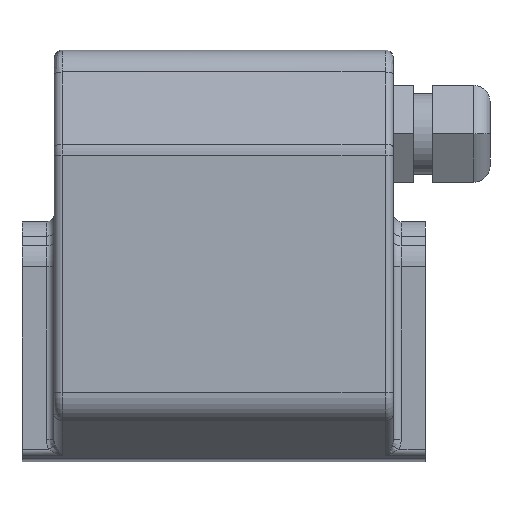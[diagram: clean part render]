
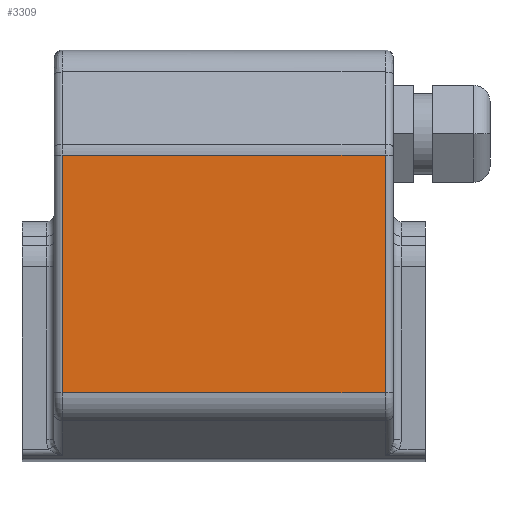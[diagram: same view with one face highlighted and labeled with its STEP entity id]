
A CAD part, left-side view. The second image highlights one B-rep face of the part: STEP entity #3309.
In plain terms, the highlighted planar face has unit normal (-1, 0, 0.009).
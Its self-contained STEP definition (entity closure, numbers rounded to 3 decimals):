
#244=PLANE('',#3458);
#335=ORIENTED_EDGE('',*,*,#1032,.T.);
#336=ORIENTED_EDGE('',*,*,#1034,.T.);
#337=ORIENTED_EDGE('',*,*,#1035,.F.);
#338=ORIENTED_EDGE('',*,*,#1036,.T.);
#1032=EDGE_CURVE('',#1380,#1379,#1595,.T.);
#1034=EDGE_CURVE('',#1379,#1381,#1596,.T.);
#1035=EDGE_CURVE('',#1382,#1381,#1597,.T.);
#1036=EDGE_CURVE('',#1382,#1380,#1598,.F.);
#1379=VERTEX_POINT('',#4514);
#1380=VERTEX_POINT('',#4516);
#1381=VERTEX_POINT('',#4520);
#1382=VERTEX_POINT('',#4522);
#1595=LINE('',#4515,#1799);
#1596=LINE('',#4519,#1800);
#1597=LINE('',#4521,#1801);
#1598=LINE('',#4523,#1802);
#1799=VECTOR('',#3738,1000.);
#1800=VECTOR('',#3743,1000.);
#1801=VECTOR('',#3744,1000.);
#1802=VECTOR('',#3745,1000.);
#1997=EDGE_LOOP('',(#335,#336,#337,#338));
#2147=FACE_BOUND('',#1997,.T.);
#3309=ADVANCED_FACE('',(#2147),#244,.F.);
#3458=AXIS2_PLACEMENT_3D('',#4518,#3741,#3742);
#3738=DIRECTION('',(0.,1.,0.));
#3741=DIRECTION('',(1.,0.,-0.009));
#3742=DIRECTION('',(-0.009,0.,-1.));
#3743=DIRECTION('',(-0.009,0.,-1.));
#3744=DIRECTION('',(0.,1.,0.));
#3745=DIRECTION('',(-0.009,0.,-1.));
#4514=CARTESIAN_POINT('',(-49.353,50.,63.315));
#4515=CARTESIAN_POINT('',(-49.353,-52.5,63.315));
#4516=CARTESIAN_POINT('',(-49.353,-50.,63.315));
#4518=CARTESIAN_POINT('',(-49.995,-52.5,-10.25));
#4519=CARTESIAN_POINT('',(-49.995,50.,-10.25));
#4520=CARTESIAN_POINT('',(-49.995,50.,-10.25));
#4521=CARTESIAN_POINT('',(-49.995,-52.5,-10.25));
#4522=CARTESIAN_POINT('',(-49.995,-50.,-10.25));
#4523=CARTESIAN_POINT('',(-49.353,-50.,63.315));
